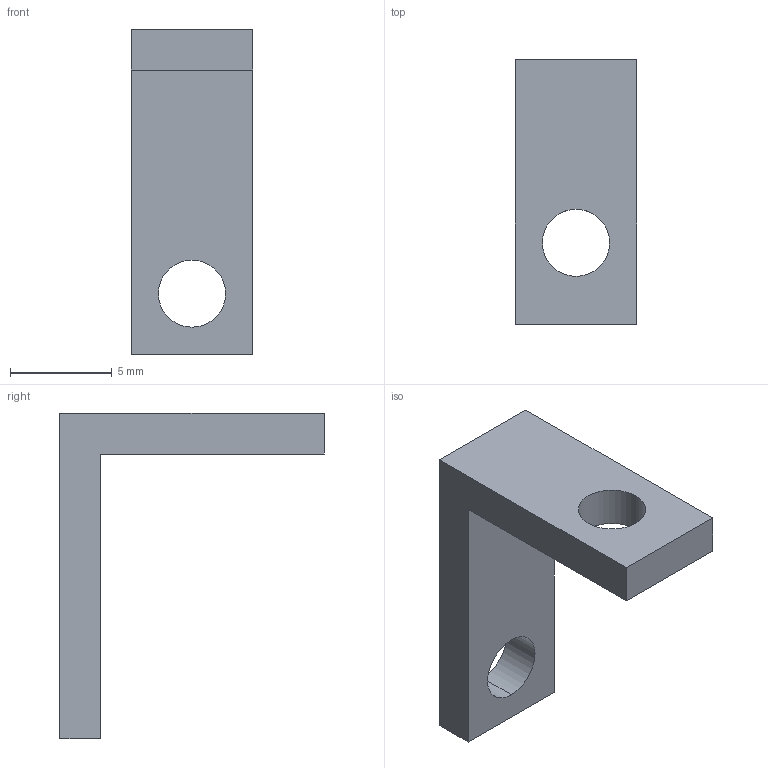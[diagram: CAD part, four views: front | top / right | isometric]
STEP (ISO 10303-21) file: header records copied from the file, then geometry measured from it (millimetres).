
FILE_DESCRIPTION (( 'STEP AP214' ), '1' );
FILE_NAME ('奻絮啣L倰輸.STEP', '2024-11-14T11:32:58', ( '' ), ( '' ), 'SwSTEP 2.0', 'SolidWorks 2021', '' );
FILE_SCHEMA (( 'AUTOMOTIVE_DESIGN' ));
Length unit declared in the file: millimetre
Products named in the file (1): 奻絮啣L倰輸
Bounding box: 6 x 13 x 16 mm (x, y, z)
Volume: 289.8 mm3; surface area: 463.3 mm2
Topology: 1 solids, 1 shells, 12 faces, 30 edges, 20 vertices
Faces by surface type: plane 8, cylinder 4
Entity records: 404 total; most frequent: DIRECTION 64, CARTESIAN_POINT 63, ORIENTED_EDGE 60, EDGE_CURVE 30, VECTOR 22, LINE 22, AXIS2_PLACEMENT_3D 21, VERTEX_POINT 20
